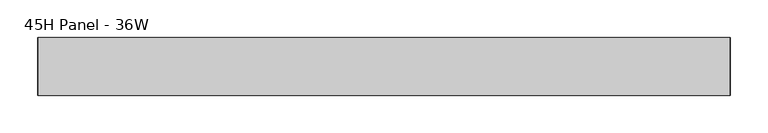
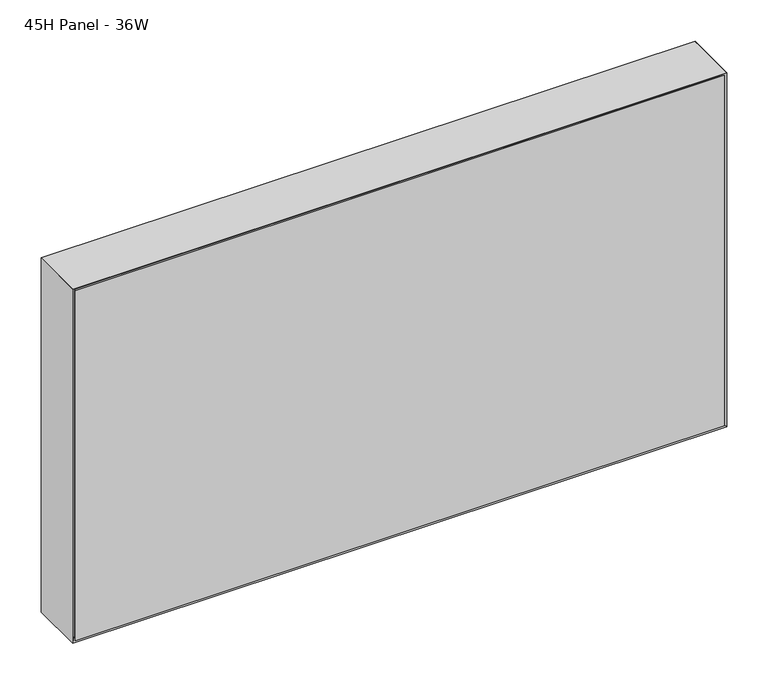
"""IFC4 building model written with IfcOpenShell, lengths in millimetres: furniture geometry, Steelcase - Montage - Frame - 20H - Enhanced Standard - Single Stack-On : 45H Panel - 36W."""

from ifc_helpers import new_model, si_unit, frame, origin, place, context, project, spatial, polyline, outline, extrude, faceted_brep, source, transform, mapped, element, save


def furniture_45h_panel_36w_f6e63f5c(model_context):
    return source(origin(), model_context, "Body", "SolidModel", [
        faceted_brep([(904.8750027, 31.7500194, 1650.9999516), (9.5250028, 31.7500194, 1650.9999516), (9.5250028, 31.7500194, 1146.175), (904.8750027, 31.7500194, 1146.175), (911.225, 38.1000194, 1657.3499516), (911.225, 38.1000194, 1139.825), (3.175, 38.1000194, 1139.825), (3.175, 38.1000194, 1657.3499516)], [[[0, 1, 2, 3]], [[4, 5, 6, 7]], [[4, 0, 3, 5]], [[5, 3, 2, 6]], [[6, 2, 1, 7]], [[7, 1, 0, 4]]]),
        faceted_brep([(904.8750027, -31.7500194, 1650.9999516), (904.8750027, -31.7500194, 1146.175), (9.5250028, -31.7500194, 1146.175), (9.5250028, -31.7500194, 1650.9999516), (911.225, -38.1000194, 1657.3499516), (3.175, -38.1000194, 1657.3499516), (3.175, -38.1000194, 1139.825), (911.225, -38.1000194, 1139.825)], [[[0, 1, 2, 3]], [[4, 5, 6, 7]], [[4, 7, 1, 0]], [[7, 6, 2, 1]], [[6, 5, 3, 2]], [[5, 4, 0, 3]]]),
        faceted_brep([(914.4, -38.1000015, 1136.65), (914.4, 38.1000015, 1136.65), (914.4, 38.1000015, 1660.5249516), (914.4, -38.1000106, 1660.5249515), (0.0, 38.1000015, 1136.65), (0.0, -38.1000015, 1136.65), (0.0, -38.1000015, 1660.5249516), (0.0, 38.1000015, 1660.5249516), (6.3500484, 31.749953, 1143.0000484), (908.0499879, 31.749953, 1143.0000484), (6.35, -31.749953, 1143.0000484), (908.0499879, -31.749953, 1143.0000484), (6.3500165, 31.749985, 1654.174935), (6.3500006, -31.7500009, 1654.1749031), (908.0499879, -31.7499979, 1654.1749031), (908.0499879, 31.7499889, 1654.1749394)], [[[0, 1, 2, 3]], [[4, 5, 6, 7]], [[1, 0, 5, 4]], [[1, 4, 8, 9]], [[9, 8, 10, 11]], [[5, 0, 11, 10]], [[4, 7, 12, 8]], [[6, 5, 10, 13]], [[10, 8, 12, 13]], [[9, 11, 14, 15]], [[0, 3, 14, 11]], [[2, 1, 9, 15]], [[3, 2, 15, 14]], [[7, 6, 13, 12]]]),
        faceted_brep([(914.4, -38.1000015, 1660.5249516), (0.0, -38.1000015, 1660.5249516), (6.3500484, -31.749953, 1654.1749031), (908.0499516, -31.749953, 1654.1749031), (6.3500484, 31.749953, 1654.1749031), (908.0499516, 31.749953, 1654.1749031), (0.0, 38.1000015, 1660.5249516), (914.4, 38.1000015, 1660.5249516)], [[[0, 1, 2, 3]], [[3, 2, 4, 5]], [[6, 7, 5, 4]], [[1, 0, 7, 6]], [[2, 1, 6, 4]], [[0, 3, 5, 7]]]),
        extrude(outline(polyline([(908.0499879, 31.7500016), (908.0499879, -31.7499985), (6.35, -31.7499985), (6.35, 31.7500016), (908.0499879, 31.7500016)])), frame((0.0, 0.0, 1142.9952145), z_axis=(0.0, 0.0, 1.0), x_axis=(1.0, 0.0, 0.0)), (0.0, 0.0, 1.0), 511.1796886),
    ])


if __name__ == "__main__":
    model = new_model("IFC4")
    model_context = context("Model", 3, world=origin())
    ifc_project = project(units=[si_unit("LENGTHUNIT", "METRE", prefix="MILLI")], contexts=[model_context])
    site = spatial("IfcSite", under=ifc_project)
    building = spatial("IfcBuilding", under=site)
    placement = place(None, origin())
    furniture_45h_panel_36w_shape = furniture_45h_panel_36w_f6e63f5c(model_context)
    element("IfcFurniture", 1, ObjectType="Steelcase - Montage - Frame - 20H - Enhanced Standard - Single Stack-On : 45H Panel - 36W", at=placement, inside=building, context=model_context, shape_type="MappedRepresentation", body=[
        mapped(furniture_45h_panel_36w_shape, transform((0.0, 0.0, 0.0), x_axis=(1.0, 0.0, 0.0), y_axis=(0.0, 1.0, 0.0), z_axis=(0.0, 0.0, 1.0))),
    ])
    save(model, "model.ifc")
